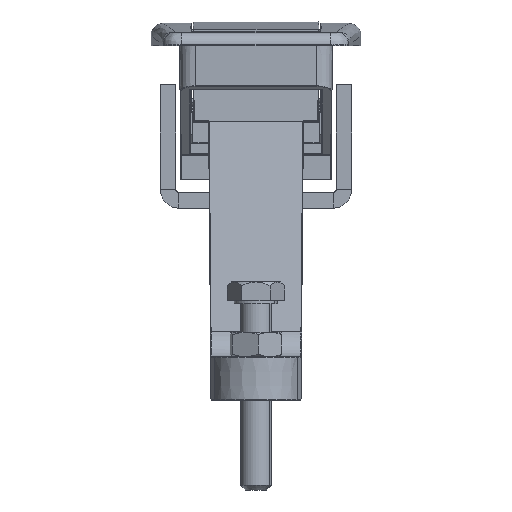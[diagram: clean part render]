
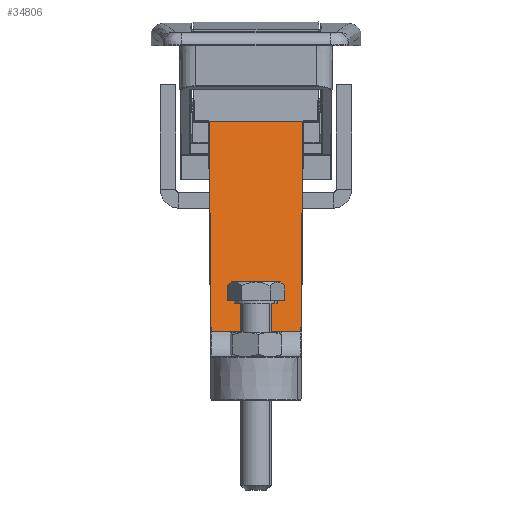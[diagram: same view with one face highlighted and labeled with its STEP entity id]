
A CAD part, left-side view. The second image highlights one B-rep face of the part: STEP entity #34806.
In plain terms, the highlighted planar face has unit normal (-0.982, 0, 0.191) as drawn and (-0.982, 0.191, 0) by its records, which use the part's own axes.
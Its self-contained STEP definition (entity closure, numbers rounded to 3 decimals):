
#159 = FACE_OUTER_BOUND ( 'NONE', #39039, .T. ) ;
#586 = LINE ( 'NONE', #8263, #16881 ) ;
#1138 = AXIS2_PLACEMENT_3D ( 'NONE', #30354, #45465, #36480 ) ;
#2502 = ORIENTED_EDGE ( 'NONE', *, *, #9595, .T. ) ;
#2542 = CARTESIAN_POINT ( 'NONE',  ( -61.292, -44.904, -7.241 ) ) ;
#4699 = CARTESIAN_POINT ( 'NONE',  ( -54.71, -11.052, -7.536 ) ) ;
#6208 = VERTEX_POINT ( 'NONE', #2542 ) ;
#6855 = DIRECTION ( 'NONE',  ( 0.191, 0.982, 0.009 ) ) ;
#7006 = ORIENTED_EDGE ( 'NONE', *, *, #27595, .T. ) ;
#8263 = CARTESIAN_POINT ( 'NONE',  ( -61.292, -44.903, -7.241 ) ) ;
#8310 = EDGE_CURVE ( 'NONE', #19166, #39399, #20864, .T. ) ;
#8888 = ORIENTED_EDGE ( 'NONE', *, *, #25338, .T. ) ;
#9210 = ORIENTED_EDGE ( 'NONE', *, *, #8310, .T. ) ;
#9595 = EDGE_CURVE ( 'NONE', #37810, #6208, #586, .T. ) ;
#10859 = DIRECTION ( 'NONE',  ( 0., 0., -1. ) ) ;
#13144 = CARTESIAN_POINT ( 'NONE',  ( -54.71, -11.052, 7.536 ) ) ;
#15280 = PLANE ( 'NONE',  #1138 ) ;
#16881 = VECTOR ( 'NONE', #38221, 1000. ) ;
#18316 = CARTESIAN_POINT ( 'NONE',  ( -61.292, -44.904, 7.241 ) ) ;
#19166 = VERTEX_POINT ( 'NONE', #41306 ) ;
#20552 = VERTEX_POINT ( 'NONE', #42200 ) ;
#20864 = LINE ( 'NONE', #35956, #22550 ) ;
#22550 = VECTOR ( 'NONE', #25311, 1000. ) ;
#22753 = CARTESIAN_POINT ( 'NONE',  ( -54.7, -11., 7.553 ) ) ;
#23002 = CARTESIAN_POINT ( 'NONE',  ( -54.705, -11.025, -7.542 ) ) ;
#23958 = EDGE_CURVE ( 'NONE', #31478, #6208, #25471, .T. ) ;
#25311 = DIRECTION ( 'NONE',  ( 0., 0., -1. ) ) ;
#25338 = EDGE_CURVE ( 'NONE', #31478, #20552, #48184, .T. ) ;
#25471 = LINE ( 'NONE', #40566, #43953 ) ;
#27595 = EDGE_CURVE ( 'NONE', #39399, #37810, #48817, .T. ) ;
#28226 = CARTESIAN_POINT ( 'NONE',  ( -54.705, -11.025, 7.542 ) ) ;
#28735 = CARTESIAN_POINT ( 'NONE',  ( -54.715, -11.079, -7.536 ) ) ;
#29646 = ORIENTED_EDGE ( 'NONE', *, *, #31418, .T. ) ;
#29844 = VECTOR ( 'NONE', #6855, 1000. ) ;
#29885 =( BOUNDED_CURVE ( )  B_SPLINE_CURVE ( 3, ( #47036, #13144, #28226, #22753 ),
 .UNSPECIFIED., .F., .F. ) 
 B_SPLINE_CURVE_WITH_KNOTS ( ( 4, 4 ),
 ( 4.721, 5.129 ),
 .UNSPECIFIED. ) 
 CURVE ( )  GEOMETRIC_REPRESENTATION_ITEM ( )  RATIONAL_B_SPLINE_CURVE ( ( 1., 0.986, 0.986, 1. ) ) 
 REPRESENTATION_ITEM ( '' )  );
#30354 = CARTESIAN_POINT ( 'NONE',  ( -54.7, -11., 7.75 ) ) ;
#31418 = EDGE_CURVE ( 'NONE', #20552, #19166, #29885, .T. ) ;
#31478 = VERTEX_POINT ( 'NONE', #18316 ) ;
#31902 = CARTESIAN_POINT ( 'NONE',  ( -54.7, -11., -7.553 ) ) ;
#34806 = ADVANCED_FACE ( 'NONE', ( #159 ), #15280, .F. ) ;
#34875 = CARTESIAN_POINT ( 'NONE',  ( -54.7, -11., -7.553 ) ) ;
#35956 = CARTESIAN_POINT ( 'NONE',  ( -54.7, -11., 7.75 ) ) ;
#36480 = DIRECTION ( 'NONE',  ( 0.191, 0.982, 0. ) ) ;
#37522 = CARTESIAN_POINT ( 'NONE',  ( -54.7, -10.998, 7.536 ) ) ;
#37810 = VERTEX_POINT ( 'NONE', #28735 ) ;
#38221 = DIRECTION ( 'NONE',  ( -0.191, -0.982, 0.009 ) ) ;
#39039 = EDGE_LOOP ( 'NONE', ( #46763, #8888, #29646, #9210, #7006, #2502 ) ) ;
#39399 = VERTEX_POINT ( 'NONE', #31902 ) ;
#40566 = CARTESIAN_POINT ( 'NONE',  ( -61.292, -44.904, 7.75 ) ) ;
#41306 = CARTESIAN_POINT ( 'NONE',  ( -54.7, -11., 7.553 ) ) ;
#42200 = CARTESIAN_POINT ( 'NONE',  ( -54.715, -11.079, 7.536 ) ) ;
#43953 = VECTOR ( 'NONE', #10859, 1000. ) ;
#45465 = DIRECTION ( 'NONE',  ( 0.982, -0.191, 0. ) ) ;
#46763 = ORIENTED_EDGE ( 'NONE', *, *, #23958, .F. ) ;
#47036 = CARTESIAN_POINT ( 'NONE',  ( -54.715, -11.079, 7.536 ) ) ;
#48184 = LINE ( 'NONE', #37522, #29844 ) ;
#48817 =( BOUNDED_CURVE ( )  B_SPLINE_CURVE ( 3, ( #34875, #23002, #4699, #48978 ),
 .UNSPECIFIED., .F., .F. ) 
 B_SPLINE_CURVE_WITH_KNOTS ( ( 4, 4 ),
 ( 1.154, 1.562 ),
 .UNSPECIFIED. ) 
 CURVE ( )  GEOMETRIC_REPRESENTATION_ITEM ( )  RATIONAL_B_SPLINE_CURVE ( ( 1., 0.986, 0.986, 1. ) ) 
 REPRESENTATION_ITEM ( '' )  );
#48978 = CARTESIAN_POINT ( 'NONE',  ( -54.715, -11.079, -7.536 ) ) ;
